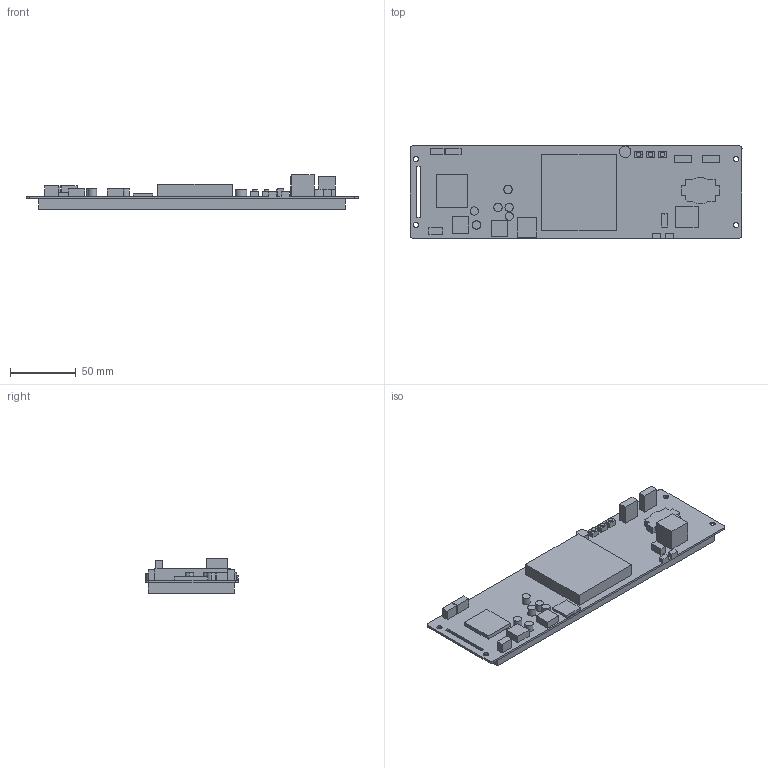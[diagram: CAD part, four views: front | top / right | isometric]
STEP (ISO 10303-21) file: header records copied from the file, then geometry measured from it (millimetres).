
FILE_DESCRIPTION((''),'2;1');
FILE_NAME('DMG19480T088-33WTCZ01','2022-09-30T',('Administrator'),(''),'PRO/ENGINEER BY PARAMETRIC TECHNOLOGY CORPORATION, 2014320','PRO/ENGINEER BY PARAMETRIC TECHNOLOGY CORPORATION, 2014320','');
FILE_SCHEMA(('CONFIG_CONTROL_DESIGN','SHAPE_APPEARANCE_LAYERS_GROUPS'));
Length unit declared in the file: millimetre
Products named in the file (1): DMG19480T088-33WTCZ01
Bounding box: 252 x 70.41 x 26.48 mm (x, y, z)
Volume: 200067.4 mm3; surface area: 49444.3 mm2
Topology: 1 solids, 1 shells, 272 faces, 705 edges, 470 vertices
Faces by surface type: plane 237, cylinder 35
Entity records: 8305 total; most frequent: CARTESIAN_POINT 1447, ORIENTED_EDGE 1410, DIRECTION 1319, EDGE_CURVE 705, VECTOR 635, LINE 635, VERTEX_POINT 470, AXIS2_PLACEMENT_3D 342
